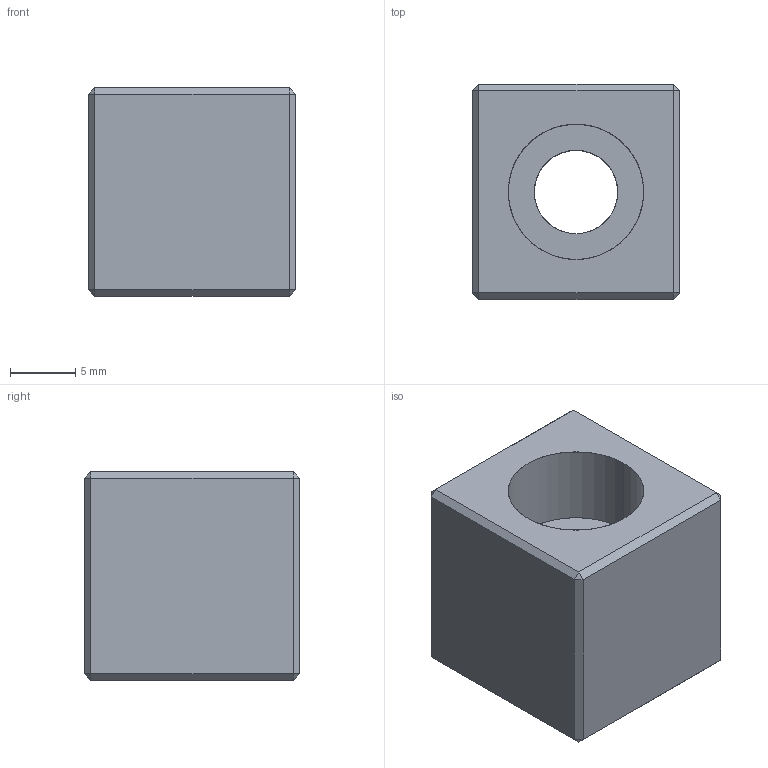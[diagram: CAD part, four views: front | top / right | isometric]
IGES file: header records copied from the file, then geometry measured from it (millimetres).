
Start section: SolidWorks IGES FILE using analytic representation for surfaces
Global section: file name: C:\WIX2\Positioning\3030\3030W030.igs; native system: SolidWorks 2003 by SolidWorks Corporation; preprocessor: Version 5.3; author: Joan; date: 030722.120001; units: millimetre
Bounding box: 15.9 x 16.5 x 16 mm (x, y, z)
Surface area: 1842 mm2 (no closed solid volume)
Topology: 0 solids, 0 shells, 31 faces, 240 edges, 240 vertices
Faces by surface type: bspline 27, revolution 4
